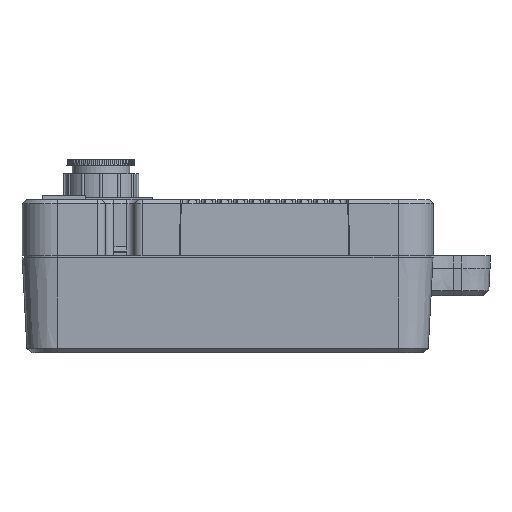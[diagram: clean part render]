
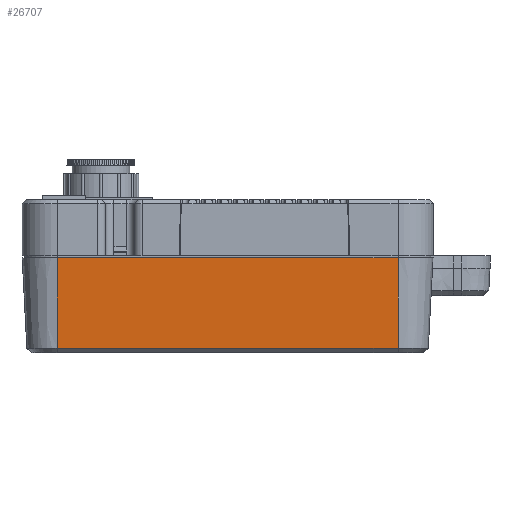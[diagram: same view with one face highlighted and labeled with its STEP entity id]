
A CAD part, left-side view. The second image highlights one B-rep face of the part: STEP entity #26707.
In plain terms, the highlighted planar face has unit normal (-0.999, 0, -0.052).
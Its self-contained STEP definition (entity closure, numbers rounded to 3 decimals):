
#1894=FACE_OUTER_BOUND('',#3412,.T.);
#3412=EDGE_LOOP('',(#18041,#18042,#18043,#18044));
#5152=LINE('',#39224,#8106);
#5153=LINE('',#39228,#8107);
#5154=LINE('',#39232,#8108);
#5155=LINE('',#39233,#8109);
#8106=VECTOR('',#31151,1.);
#8107=VECTOR('',#31156,1.);
#8108=VECTOR('',#31161,1.);
#8109=VECTOR('',#31162,1.);
#11055=VERTEX_POINT('',#39221);
#11056=VERTEX_POINT('',#39223);
#11057=VERTEX_POINT('',#39227);
#11058=VERTEX_POINT('',#39231);
#13734=EDGE_CURVE('',#11056,#11055,#5152,.T.);
#13736=EDGE_CURVE('',#11057,#11056,#5153,.T.);
#13738=EDGE_CURVE('',#11058,#11055,#5154,.T.);
#13739=EDGE_CURVE('',#11057,#11058,#5155,.T.);
#18041=ORIENTED_EDGE('',*,*,#13734,.T.);
#18042=ORIENTED_EDGE('',*,*,#13738,.F.);
#18043=ORIENTED_EDGE('',*,*,#13739,.F.);
#18044=ORIENTED_EDGE('',*,*,#13736,.T.);
#25664=PLANE('',#28336);
#26707=ADVANCED_FACE('',(#1894),#25664,.F.);
#28336=AXIS2_PLACEMENT_3D('',#39230,#31159,#31160);
#31151=DIRECTION('',(0.,1.,0.));
#31156=DIRECTION('',(-0.052,0.,0.999));
#31159=DIRECTION('center_axis',(0.999,0.,
0.052));
#31160=DIRECTION('ref_axis',(0.,1.,0.));
#31161=DIRECTION('',(-0.052,0.,0.999));
#31162=DIRECTION('',(0.,1.,0.));
#39221=CARTESIAN_POINT('',(-35.178,24.66,11.08));
#39223=CARTESIAN_POINT('',(-35.178,-17.96,11.08));
#39224=CARTESIAN_POINT('',(-35.178,15.9,11.08));
#39227=CARTESIAN_POINT('',(-34.588,-17.96,-0.185));
#39228=CARTESIAN_POINT('',(-34.6,-17.96,0.046));
#39230=CARTESIAN_POINT('Origin',(-35.189,28.45,11.281));
#39231=CARTESIAN_POINT('',(-34.588,24.66,-0.185));
#39232=CARTESIAN_POINT('',(-34.6,24.66,0.046));
#39233=CARTESIAN_POINT('',(-34.588,-9.2,-0.185));
